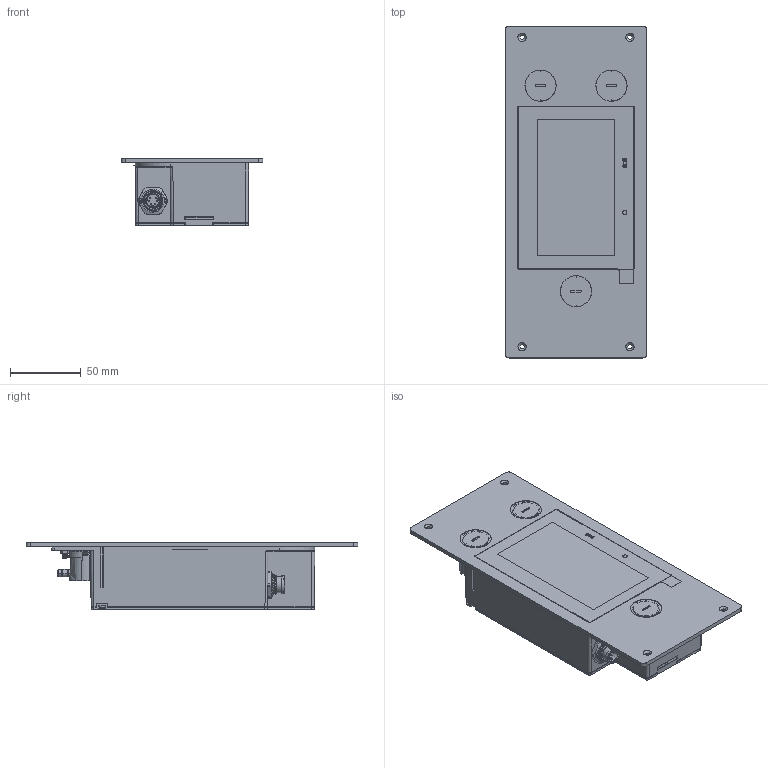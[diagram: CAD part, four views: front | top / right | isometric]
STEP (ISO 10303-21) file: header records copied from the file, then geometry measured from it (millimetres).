
FILE_DESCRIPTION (( 'STEP AP214' ), '1' );
FILE_NAME ('060423 CPE320.STEP', '2023-04-06T07:11:08', ( '' ), ( '' ), 'SwSTEP 2.0', 'SolidWorks 2021', '' );
FILE_SCHEMA (( 'AUTOMOTIVE_DESIGN' ));
Length unit declared in the file: mil
Products named in the file (1): 060423 CPE320
Bounding box: 100 x 234 x 47.01 mm (x, y, z)
Surface area: 213708.9 mm2 (no closed solid volume)
Topology: 0 solids, 33 shells, 2788 faces, 7758 edges, 5087 vertices
Faces by surface type: bspline 2788
Entity records: 136501 total; most frequent: CARTESIAN_POINT 87668, ORIENTED_EDGE 15344, EDGE_CURVE 7750, B_SPLINE_CURVE_WITH_KNOTS 6549, VERTEX_POINT 5089, EDGE_LOOP 3016, FACE_OUTER_BOUND 2808, ADVANCED_FACE 2788
